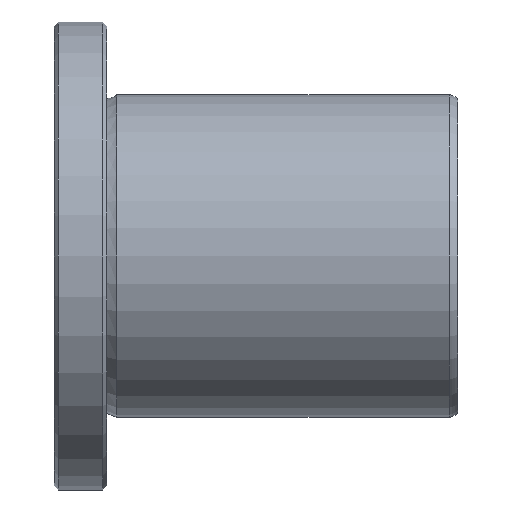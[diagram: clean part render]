
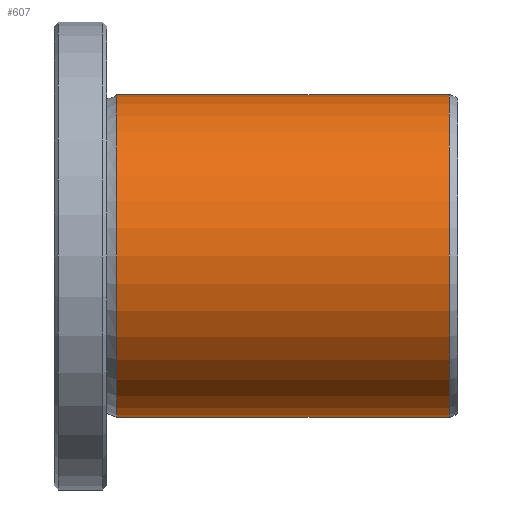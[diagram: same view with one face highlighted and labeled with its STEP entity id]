
A CAD part, front view. The second image highlights one B-rep face of the part: STEP entity #607.
In plain terms, the highlighted cylindrical face has radius 40 mm (diameter 80 mm), a full revolution.
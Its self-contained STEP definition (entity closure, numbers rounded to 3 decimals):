
#573=CARTESIAN_POINT('',(97.839,0.0,40.));
#574=VERTEX_POINT('',#573);
#575=CARTESIAN_POINT('',(97.839,0.0,0.0));
#576=DIRECTION('',(-1.0,0.0,0.0));
#577=DIRECTION('',(0.0,0.0,1.0));
#578=AXIS2_PLACEMENT_3D('',#575,#576,#577);
#579=CIRCLE('',#578,40.);
#580=EDGE_CURVE('',#574,#574,#579,.T.);
#588=CARTESIAN_POINT('',(56.692,0.0,0.0));
#589=DIRECTION('',(-1.0,0.0,0.0));
#590=DIRECTION('',(0.0,0.0,1.0));
#591=AXIS2_PLACEMENT_3D('',#588,#589,#590);
#592=CYLINDRICAL_SURFACE('',#591,40.);
#593=CARTESIAN_POINT('',(15.546,0.0,40.));
#594=VERTEX_POINT('',#593);
#595=CARTESIAN_POINT('',(15.546,0.0,0.0));
#596=DIRECTION('',(-1.0,0.0,0.0));
#597=DIRECTION('',(0.0,0.0,1.0));
#598=AXIS2_PLACEMENT_3D('',#595,#596,#597);
#599=CIRCLE('',#598,40.);
#600=EDGE_CURVE('',#594,#594,#599,.T.);
#601=ORIENTED_EDGE('',*,*,#600,.F.);
#602=EDGE_LOOP('',(#601));
#603=FACE_OUTER_BOUND('',#602,.T.);
#604=ORIENTED_EDGE('',*,*,#580,.T.);
#605=EDGE_LOOP('',(#604));
#606=FACE_BOUND('',#605,.T.);
#607=ADVANCED_FACE('',(#603,#606),#592,.T.);
